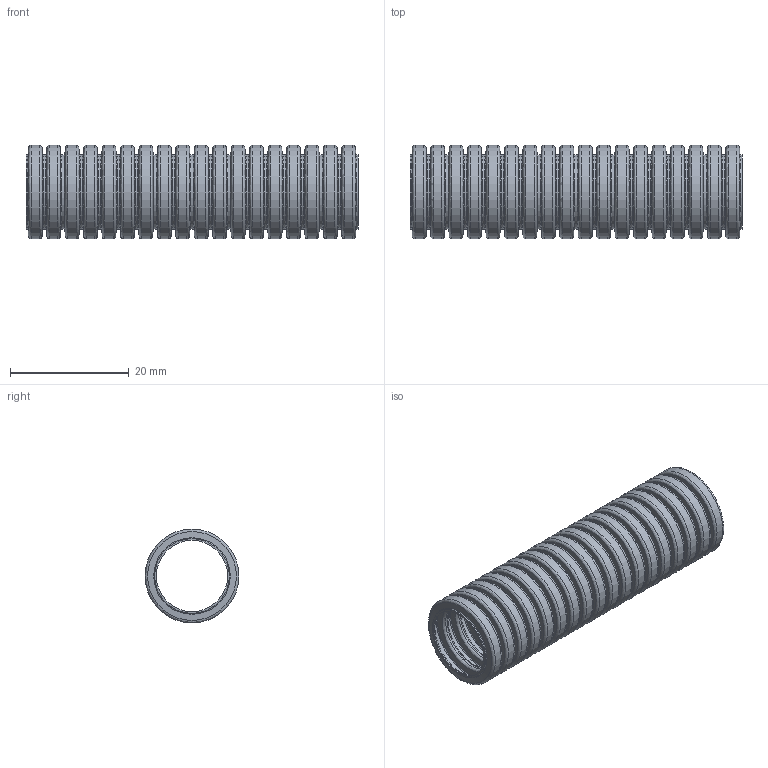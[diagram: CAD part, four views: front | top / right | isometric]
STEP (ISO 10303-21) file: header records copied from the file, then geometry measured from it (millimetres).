
FILE_DESCRIPTION (( 'STEP AP214' ), '1' );
FILE_NAME ('CON16_V1.STEP', '2017-07-27T10:41:16', ( '' ), ( '' ), 'SwSTEP 2.0', 'SolidWorks 2014', '' );
FILE_SCHEMA (( 'AUTOMOTIVE_DESIGN' ));
Length unit declared in the file: millimetre
Products named in the file (1): CON16_V1
Bounding box: 55.98 x 15.8 x 15.8 mm (x, y, z)
Volume: 1352.4 mm3; surface area: 9096.4 mm2
Topology: 1 solids, 1 shells, 292 faces, 795 edges, 505 vertices
Faces by surface type: bspline 144, cylinder 74, cone 72, plane 2
Full cylindrical faces by diameter (mm): 12 x19, 12.6 x19, 15.2 x18, 15.8 x18
Entity records: 12406 total; most frequent: CARTESIAN_POINT 4765, DIRECTION 882, EDGE_LOOP 584, ORIENTED_EDGE 584, FACE_OUTER_BOUND 510, AXIS2_PLACEMENT_3D 441, UNCERTAINTY_MEASURE_WITH_UNIT 295, SURFACE_STYLE_USAGE 294
